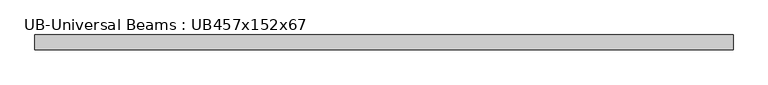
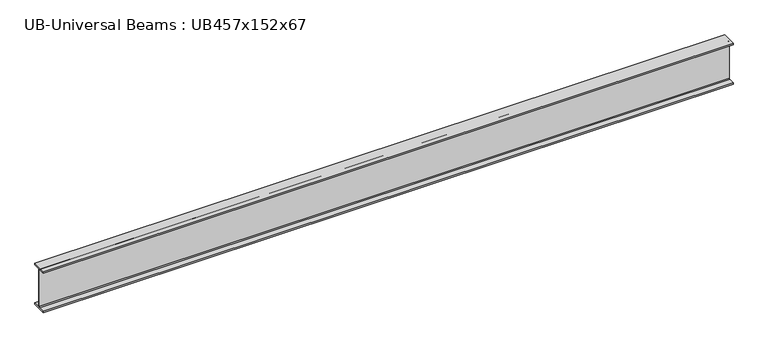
"""IFC4 building model written with IfcOpenShell, lengths in millimetres: beam geometry, UB-Universal Beams : UB457x152x67."""

from ifc_helpers import new_model, si_unit, point, frame, frame_2d, origin, place, context, project, spatial, polyline, circle_curve, trimmed, segment, composite_curve, outline, extrude, source, transform, mapped, element, save


def ub_universal_beams_ub457x152x67_aeb7bd67(model_context):
    return source(origin(), model_context, "Body", "SweptSolid", [
        extrude(outline(composite_curve([segment(polyline([(76.9, -214.0), (76.9, -229.0), (-76.9, -229.0), (-76.9, -214.0), (-14.7, -214.0)]), True, "CONTINUOUS"), segment(trimmed(circle_curve(frame_2d((-14.7, -203.8)), 10.2), [point((-14.7, -214.0))], [point((-4.5, -203.8))], True, "CARTESIAN"), True, "CONTINUOUS"), segment(polyline([(-4.5, -203.8), (-4.5, 203.8)]), True, "CONTINUOUS"), segment(trimmed(circle_curve(frame_2d((-14.7, 203.8)), 10.2), [point((-4.5, 203.8))], [point((-14.7, 214.0))], True, "CARTESIAN"), True, "CONTINUOUS"), segment(polyline([(-14.7, 214.0), (-76.9, 214.0), (-76.9, 229.0), (76.9, 229.0), (76.9, 214.0), (14.7, 214.0)]), True, "CONTINUOUS"), segment(trimmed(circle_curve(frame_2d((14.7, 203.8)), 10.2), [point((14.7, 214.0))], [point((4.5, 203.8))], True, "CARTESIAN"), True, "CONTINUOUS"), segment(polyline([(4.5, 203.8), (4.5, -203.8)]), True, "CONTINUOUS"), segment(trimmed(circle_curve(frame_2d((14.7, -203.8)), 10.2), [point((4.5, -203.8))], [point((14.7, -214.0))], True, "CARTESIAN"), True, "CONTINUOUS"), segment(polyline([(14.7, -214.0), (76.9, -214.0)]), True, "CONTINUOUS")], self_intersect=False)), frame((-3621.1, 0.0, 0.0), z_axis=(1.0, 0.0, 0.0), x_axis=(0.0, 1.0, 0.0)), (0.0, 0.0, 1.0), 7295.9),
    ])


if __name__ == "__main__":
    model = new_model("IFC4")
    model_context = context("Model", 3, world=origin())
    ifc_project = project(units=[si_unit("LENGTHUNIT", "METRE", prefix="MILLI")], contexts=[model_context])
    site = spatial("IfcSite", under=ifc_project)
    building = spatial("IfcBuilding", under=site)
    placement = place(None, origin())
    ub_universal_beams_ub457x152x67_shape = ub_universal_beams_ub457x152x67_aeb7bd67(model_context)
    element("IfcBeam", 1, ObjectType="UB-Universal Beams : UB457x152x67", at=placement, inside=building, context=model_context, shape_type="MappedRepresentation", body=[
        mapped(ub_universal_beams_ub457x152x67_shape, transform((0.0, 0.0, 0.0), x_axis=(1.0, 0.0, 0.0), y_axis=(0.0, 1.0, 0.0), z_axis=(0.0, 0.0, 1.0))),
    ])
    save(model, "model.ifc")
